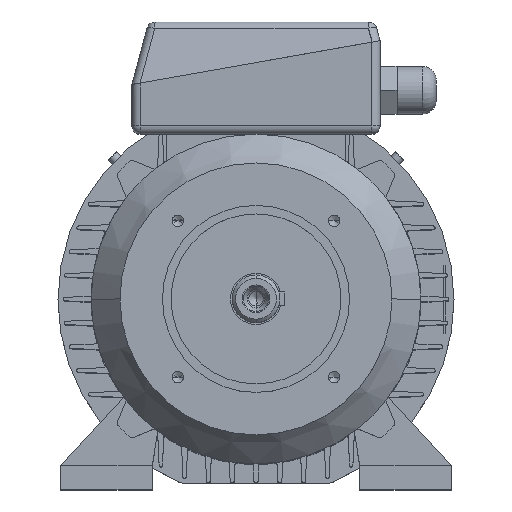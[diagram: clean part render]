
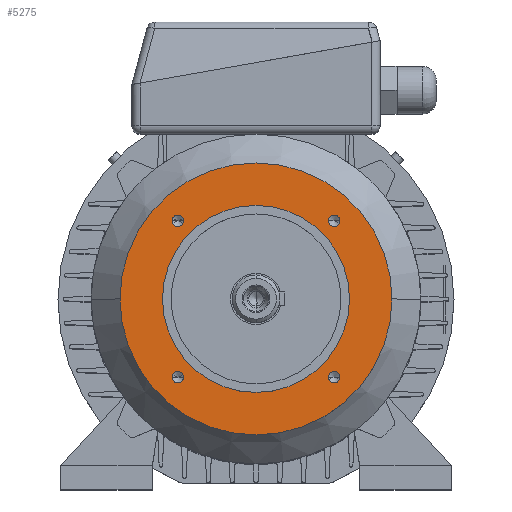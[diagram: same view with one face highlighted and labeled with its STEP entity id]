
A CAD part, top view. The second image highlights one B-rep face of the part: STEP entity #5275.
In plain terms, the highlighted planar face has unit normal (0, 0, 1).
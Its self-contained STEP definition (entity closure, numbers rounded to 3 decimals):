
#16421 = CARTESIAN_POINT ( 'NONE',  ( -80., 0., 51. ) ) ;
#16463 = EDGE_CURVE ( 'NONE', #17070, #6911, #471, .T. ) ;
#471 = CIRCLE ( 'NONE', #472, 3.4 ) ;
#472 = AXIS2_PLACEMENT_3D ( 'NONE', #473, #474, #475 ) ;
#473 = CARTESIAN_POINT ( 'NONE',  ( -45.962, 45.962, 51. ) ) ;
#474 = DIRECTION ( 'NONE',  ( 0., 0., 1. ) ) ;
#475 = DIRECTION ( 'NONE',  ( 1., 0., 0. ) ) ;
#16864 = ORIENTED_EDGE ( 'NONE', *, *, #16463, .F. ) ;
#16927 = CIRCLE ( 'NONE', #16935, 55. ) ;
#16935 = AXIS2_PLACEMENT_3D ( 'NONE', #16936, #16937, #16938 ) ;
#16936 = CARTESIAN_POINT ( 'NONE',  ( 0., 0., 51. ) ) ;
#16937 = DIRECTION ( 'NONE',  ( 0., 0., 1. ) ) ;
#16938 = DIRECTION ( 'NONE',  ( 1., 0., 0. ) ) ;
#17070 = VERTEX_POINT ( 'NONE', #984 ) ;
#17283 = EDGE_CURVE ( 'NONE', #6911, #17070, #1095, .T. ) ;
#984 = CARTESIAN_POINT ( 'NONE',  ( -42.562, 45.962, 51. ) ) ;
#1041 = VERTEX_POINT ( 'NONE', #6475 ) ;
#1095 = CIRCLE ( 'NONE', #1096, 3.4 ) ;
#1096 = AXIS2_PLACEMENT_3D ( 'NONE', #1097, #1098, #1099 ) ;
#1097 = CARTESIAN_POINT ( 'NONE',  ( -45.962, 45.962, 51. ) ) ;
#1098 = DIRECTION ( 'NONE',  ( 0., 0., 1. ) ) ;
#1099 = DIRECTION ( 'NONE',  ( 1., 0., 0. ) ) ;
#17504 = VERTEX_POINT ( 'NONE', #1280 ) ;
#1280 = CARTESIAN_POINT ( 'NONE',  ( -55., 0., 51. ) ) ;
#17775 = VERTEX_POINT ( 'NONE', #1541 ) ;
#1541 = CARTESIAN_POINT ( 'NONE',  ( 55., 0., 51. ) ) ;
#18040 = EDGE_CURVE ( 'NONE', #17775, #17504, #1731, .T. ) ;
#1731 = CIRCLE ( 'NONE', #1732, 55. ) ;
#1732 = AXIS2_PLACEMENT_3D ( 'NONE', #1733, #1734, #1735 ) ;
#1733 = CARTESIAN_POINT ( 'NONE',  ( 0., 0., 51. ) ) ;
#1734 = DIRECTION ( 'NONE',  ( 0., 0., 1. ) ) ;
#1735 = DIRECTION ( 'NONE',  ( 1., 0., 0. ) ) ;
#18340 = VERTEX_POINT ( 'NONE', #2027 ) ;
#2027 = CARTESIAN_POINT ( 'NONE',  ( 49.362, 45.962, 51. ) ) ;
#2210 = CIRCLE ( 'NONE', #2211, 3.4 ) ;
#2211 = AXIS2_PLACEMENT_3D ( 'NONE', #2212, #2213, #2214 ) ;
#2212 = CARTESIAN_POINT ( 'NONE',  ( 45.962, 45.962, 51. ) ) ;
#2213 = DIRECTION ( 'NONE',  ( 0., 0., 1. ) ) ;
#2214 = DIRECTION ( 'NONE',  ( 1., 0., 0. ) ) ;
#18613 = EDGE_CURVE ( 'NONE', #19716, #18340, #2210, .T. ) ;
#2306 = EDGE_LOOP ( 'NONE', ( #11529, #10992 ) ) ;
#2593 = EDGE_CURVE ( 'NONE', #9950, #8600, #7684, .T. ) ;
#3043 = ORIENTED_EDGE ( 'NONE', *, *, #2593, .T. ) ;
#3168 = CARTESIAN_POINT ( 'NONE',  ( 42.562, 45.962, 51. ) ) ;
#19716 = VERTEX_POINT ( 'NONE', #3168 ) ;
#3670 = ORIENTED_EDGE ( 'NONE', *, *, #8868, .T. ) ;
#4288 = EDGE_LOOP ( 'NONE', ( #3670, #3043 ) ) ;
#4389 = CARTESIAN_POINT ( 'NONE',  ( -42.562, -45.962, 51. ) ) ;
#4592 = ORIENTED_EDGE ( 'NONE', *, *, #18613, .F. ) ;
#4593 = CIRCLE ( 'NONE', #4594, 3.4 ) ;
#4594 = AXIS2_PLACEMENT_3D ( 'NONE', #4595, #4596, #4597 ) ;
#4595 = CARTESIAN_POINT ( 'NONE',  ( -45.962, -45.962, 51. ) ) ;
#4596 = DIRECTION ( 'NONE',  ( 0., 0., 1. ) ) ;
#4597 = DIRECTION ( 'NONE',  ( 1., 0., 0. ) ) ;
#21194 = VERTEX_POINT ( 'NONE', #4389 ) ;
#4883 = EDGE_CURVE ( 'NONE', #18340, #19716, #10720, .T. ) ;
#5019 = ORIENTED_EDGE ( 'NONE', *, *, #4883, .F. ) ;
#21463 = EDGE_CURVE ( 'NONE', #1041, #21194, #4593, .T. ) ;
#5188 = EDGE_LOOP ( 'NONE', ( #5019, #4592 ) ) ;
#5275 = ADVANCED_FACE ( 'NONE', ( #11974, #11975, #11976, #11977, #11993, #11994 ), #11995, .F. ) ;
#6016 = EDGE_LOOP ( 'NONE', ( #16864, #15836 ) ) ;
#6303 = ORIENTED_EDGE ( 'NONE', *, *, #8373, .F. ) ;
#6475 = CARTESIAN_POINT ( 'NONE',  ( -49.362, -45.962, 51. ) ) ;
#6911 = VERTEX_POINT ( 'NONE', #13820 ) ;
#6928 = EDGE_CURVE ( 'NONE', #8111, #9457, #13821, .T. ) ;
#7393 = ORIENTED_EDGE ( 'NONE', *, *, #6928, .F. ) ;
#7684 = CIRCLE ( 'NONE', #7685, 80. ) ;
#7685 = AXIS2_PLACEMENT_3D ( 'NONE', #7686, #7694, #7695 ) ;
#7686 = CARTESIAN_POINT ( 'NONE',  ( 0., 0., 51. ) ) ;
#7694 = DIRECTION ( 'NONE',  ( 0., 0., 1. ) ) ;
#7695 = DIRECTION ( 'NONE',  ( 1., 0., 0. ) ) ;
#8111 = VERTEX_POINT ( 'NONE', #14901 ) ;
#8241 = EDGE_LOOP ( 'NONE', ( #7393, #6303 ) ) ;
#8373 = EDGE_CURVE ( 'NONE', #9457, #8111, #15125, .T. ) ;
#8538 = ORIENTED_EDGE ( 'NONE', *, *, #21463, .F. ) ;
#8600 = VERTEX_POINT ( 'NONE', #15331 ) ;
#8868 = EDGE_CURVE ( 'NONE', #8600, #9950, #15498, .T. ) ;
#9156 = EDGE_CURVE ( 'NONE', #21194, #1041, #15702, .T. ) ;
#9457 = VERTEX_POINT ( 'NONE', #16017 ) ;
#9617 = ORIENTED_EDGE ( 'NONE', *, *, #9156, .F. ) ;
#9950 = VERTEX_POINT ( 'NONE', #16421 ) ;
#10254 = EDGE_LOOP ( 'NONE', ( #9617, #8538 ) ) ;
#10536 = EDGE_CURVE ( 'NONE', #17504, #17775, #16927, .T. ) ;
#10720 = CIRCLE ( 'NONE', #10721, 3.4 ) ;
#10721 = AXIS2_PLACEMENT_3D ( 'NONE', #10722, #10723, #10724 ) ;
#10722 = CARTESIAN_POINT ( 'NONE',  ( 45.962, 45.962, 51. ) ) ;
#10723 = DIRECTION ( 'NONE',  ( 0., 0., 1. ) ) ;
#10724 = DIRECTION ( 'NONE',  ( 1., 0., 0. ) ) ;
#10992 = ORIENTED_EDGE ( 'NONE', *, *, #10536, .F. ) ;
#11529 = ORIENTED_EDGE ( 'NONE', *, *, #18040, .F. ) ;
#11974 = FACE_BOUND ( 'NONE', #5188, .T. ) ;
#11975 = FACE_OUTER_BOUND ( 'NONE', #4288, .T. ) ;
#11976 = FACE_BOUND ( 'NONE', #2306, .T. ) ;
#11977 = FACE_BOUND ( 'NONE', #10254, .T. ) ;
#11993 = FACE_BOUND ( 'NONE', #8241, .T. ) ;
#11994 = FACE_BOUND ( 'NONE', #6016, .T. ) ;
#11995 = PLANE ( 'NONE',  #11996 ) ;
#11996 = AXIS2_PLACEMENT_3D ( 'NONE', #11997, #11998, #11999 ) ;
#11997 = CARTESIAN_POINT ( 'NONE',  ( 0., 80., 51. ) ) ;
#11998 = DIRECTION ( 'NONE',  ( 0., 0., -1. ) ) ;
#11999 = DIRECTION ( 'NONE',  ( -1., 0., 0. ) ) ;
#13820 = CARTESIAN_POINT ( 'NONE',  ( -49.362, 45.962, 51. ) ) ;
#13821 = CIRCLE ( 'NONE', #13822, 3.4 ) ;
#13822 = AXIS2_PLACEMENT_3D ( 'NONE', #13823, #13824, #13832 ) ;
#13823 = CARTESIAN_POINT ( 'NONE',  ( 45.962, -45.962, 51. ) ) ;
#13824 = DIRECTION ( 'NONE',  ( 0., 0., 1. ) ) ;
#13832 = DIRECTION ( 'NONE',  ( 1., 0., 0. ) ) ;
#14901 = CARTESIAN_POINT ( 'NONE',  ( 49.362, -45.962, 51. ) ) ;
#15125 = CIRCLE ( 'NONE', #15126, 3.4 ) ;
#15126 = AXIS2_PLACEMENT_3D ( 'NONE', #15127, #15128, #15129 ) ;
#15127 = CARTESIAN_POINT ( 'NONE',  ( 45.962, -45.962, 51. ) ) ;
#15128 = DIRECTION ( 'NONE',  ( 0., 0., 1. ) ) ;
#15129 = DIRECTION ( 'NONE',  ( 1., 0., 0. ) ) ;
#15331 = CARTESIAN_POINT ( 'NONE',  ( 80., 0., 51. ) ) ;
#15498 = CIRCLE ( 'NONE', #15499, 80. ) ;
#15499 = AXIS2_PLACEMENT_3D ( 'NONE', #15500, #15501, #15502 ) ;
#15500 = CARTESIAN_POINT ( 'NONE',  ( 0., 0., 51. ) ) ;
#15501 = DIRECTION ( 'NONE',  ( 0., 0., 1. ) ) ;
#15502 = DIRECTION ( 'NONE',  ( 1., 0., 0. ) ) ;
#15702 = CIRCLE ( 'NONE', #15703, 3.4 ) ;
#15703 = AXIS2_PLACEMENT_3D ( 'NONE', #15704, #15705, #15706 ) ;
#15704 = CARTESIAN_POINT ( 'NONE',  ( -45.962, -45.962, 51. ) ) ;
#15705 = DIRECTION ( 'NONE',  ( 0., 0., 1. ) ) ;
#15706 = DIRECTION ( 'NONE',  ( 1., 0., 0. ) ) ;
#15836 = ORIENTED_EDGE ( 'NONE', *, *, #17283, .F. ) ;
#16017 = CARTESIAN_POINT ( 'NONE',  ( 42.562, -45.962, 51. ) ) ;
